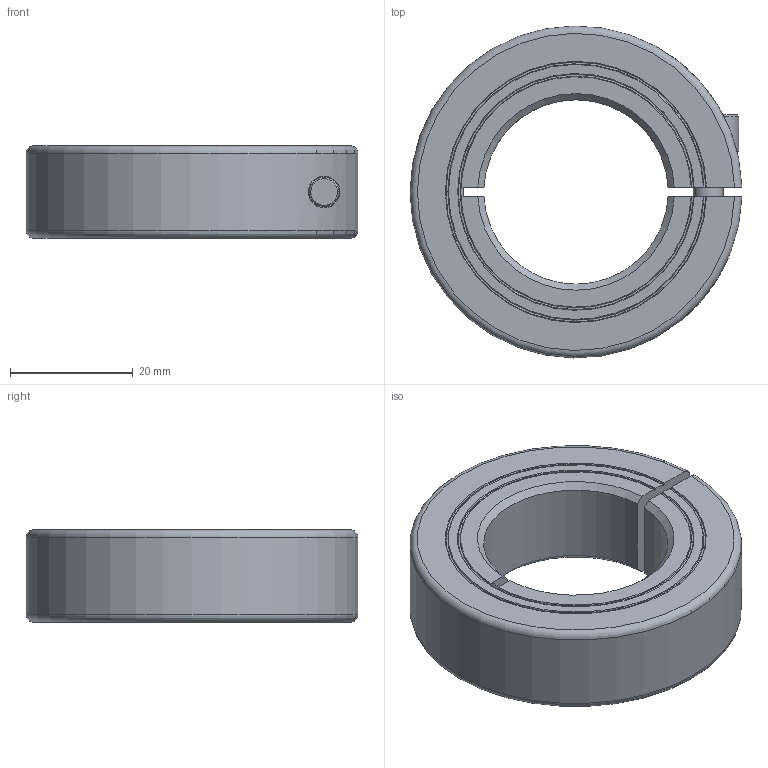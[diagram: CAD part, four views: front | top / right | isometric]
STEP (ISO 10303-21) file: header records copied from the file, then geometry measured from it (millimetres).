
FILE_DESCRIPTION((''),'2;1');
FILE_NAME('MCL-30-F','2016-09-08T',('SYSTEM'),(''),'PRO/ENGINEER BY PARAMETRIC TECHNOLOGY CORPORATION, 2015110','PRO/ENGINEER BY PARAMETRIC TECHNOLOGY CORPORATION, 2015110','');
FILE_SCHEMA(('AUTOMOTIVE_DESIGN { 1 0 10303 214 1 1 1 1 }'));
Length unit declared in the file: inch
Products named in the file (1): MCL-30-F
Bounding box: 53.99 x 53.99 x 15 mm (x, y, z)
Volume: 22577.5 mm3; surface area: 8299 mm2
Topology: 1 solids, 1 shells, 54 faces, 142 edges, 94 vertices
Faces by surface type: plane 21, cone 14, cylinder 14, torus 5
Entity records: 2252 total; most frequent: CARTESIAN_POINT 472, ORIENTED_EDGE 284, DIRECTION 275, EDGE_CURVE 142, AXIS2_PLACEMENT_3D 108, VERTEX_POINT 94, EDGE_LOOP 60, VECTOR 59
